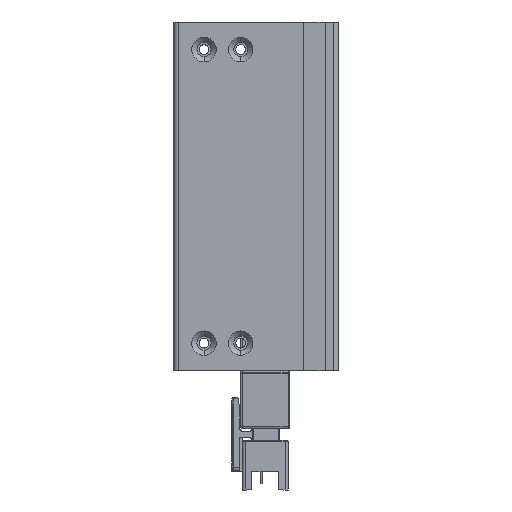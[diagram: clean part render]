
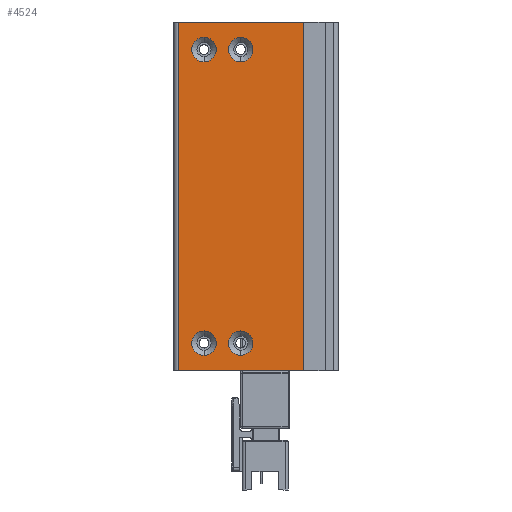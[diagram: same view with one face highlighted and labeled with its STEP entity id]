
A CAD part, left-side view. The second image highlights one B-rep face of the part: STEP entity #4524.
In plain terms, the highlighted planar face has unit normal (-1, 0, 0).
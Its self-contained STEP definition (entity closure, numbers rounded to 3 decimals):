
#9 = CARTESIAN_POINT ( 'NONE',  ( -14., 6., 24. ) ) ;
#32 = EDGE_CURVE ( 'NONE', #2720, #9604, #1213, .T. ) ;
#53 = DIRECTION ( 'NONE',  ( 0., 0., 1. ) ) ;
#219 = ORIENTED_EDGE ( 'NONE', *, *, #8504, .F. ) ;
#292 = CARTESIAN_POINT ( 'NONE',  ( -14., 12., -26. ) ) ;
#305 = DIRECTION ( 'NONE',  ( 0., 0., -1. ) ) ;
#452 = CIRCLE ( 'NONE', #10218, 2. ) ;
#588 = AXIS2_PLACEMENT_3D ( 'NONE', #5699, #9320, #53 ) ;
#654 = CARTESIAN_POINT ( 'NONE',  ( -14., 12., -24. ) ) ;
#665 = DIRECTION ( 'NONE',  ( 0., -1., 0. ) ) ;
#818 = CIRCLE ( 'NONE', #1739, 2. ) ;
#819 = DIRECTION ( 'NONE',  ( 0., 0., 1. ) ) ;
#906 = DIRECTION ( 'NONE',  ( 0., 0., -1. ) ) ;
#983 = VERTEX_POINT ( 'NONE', #7760 ) ;
#1068 = VECTOR ( 'NONE', #305, 1000. ) ;
#1170 = CARTESIAN_POINT ( 'NONE',  ( -14., 16.2, 28.5 ) ) ;
#1190 = CARTESIAN_POINT ( 'NONE',  ( -14., 12., -24. ) ) ;
#1198 = CARTESIAN_POINT ( 'NONE',  ( -14., 12., 24. ) ) ;
#1213 = LINE ( 'NONE', #3557, #11637 ) ;
#1254 = CARTESIAN_POINT ( 'NONE',  ( -14., -4.3, 28.5 ) ) ;
#1372 = DIRECTION ( 'NONE',  ( -1., 0., 0. ) ) ;
#1380 = DIRECTION ( 'NONE',  ( -1., 0., 0. ) ) ;
#1495 = CARTESIAN_POINT ( 'NONE',  ( -14., 6., -24. ) ) ;
#1548 = CARTESIAN_POINT ( 'NONE',  ( -14., 16.2, -28.5 ) ) ;
#1568 = CARTESIAN_POINT ( 'NONE',  ( -14., 16.2, 28.5 ) ) ;
#1640 = CARTESIAN_POINT ( 'NONE',  ( -14., 12., -22. ) ) ;
#1739 = AXIS2_PLACEMENT_3D ( 'NONE', #9, #7407, #1952 ) ;
#1779 = ORIENTED_EDGE ( 'NONE', *, *, #5273, .F. ) ;
#1952 = DIRECTION ( 'NONE',  ( 0., 0., 1. ) ) ;
#1971 = FACE_BOUND ( 'NONE', #2373, .T. ) ;
#2093 = ORIENTED_EDGE ( 'NONE', *, *, #9767, .T. ) ;
#2151 = CARTESIAN_POINT ( 'NONE',  ( -14., 6., 24. ) ) ;
#2253 = CARTESIAN_POINT ( 'NONE',  ( -14., 6., 26. ) ) ;
#2372 = VERTEX_POINT ( 'NONE', #8644 ) ;
#2373 = EDGE_LOOP ( 'NONE', ( #1779, #9300 ) ) ;
#2420 = ORIENTED_EDGE ( 'NONE', *, *, #7855, .F. ) ;
#2720 = VERTEX_POINT ( 'NONE', #3700 ) ;
#2728 = CIRCLE ( 'NONE', #8803, 2. ) ;
#2765 = ORIENTED_EDGE ( 'NONE', *, *, #5393, .F. ) ;
#2840 = CARTESIAN_POINT ( 'NONE',  ( -14., 6., 22. ) ) ;
#2861 = EDGE_CURVE ( 'NONE', #6762, #983, #11427, .T. ) ;
#2935 = EDGE_LOOP ( 'NONE', ( #2420, #11656 ) ) ;
#2946 = ORIENTED_EDGE ( 'NONE', *, *, #2861, .F. ) ;
#3094 = DIRECTION ( 'NONE',  ( 0., 0., 1. ) ) ;
#3114 = DIRECTION ( 'NONE',  ( 0., 0., 1. ) ) ;
#3557 = CARTESIAN_POINT ( 'NONE',  ( -14., 16.2, 28.5 ) ) ;
#3636 = CARTESIAN_POINT ( 'NONE',  ( -14., 16.2, -28.5 ) ) ;
#3699 = VERTEX_POINT ( 'NONE', #7610 ) ;
#3700 = CARTESIAN_POINT ( 'NONE',  ( -14., 16.2, 28.5 ) ) ;
#3836 = VECTOR ( 'NONE', #665, 1000. ) ;
#3980 = FACE_BOUND ( 'NONE', #11153, .T. ) ;
#4135 = CARTESIAN_POINT ( 'NONE',  ( -14., 6., -22. ) ) ;
#4256 = VECTOR ( 'NONE', #906, 1000. ) ;
#4406 = EDGE_CURVE ( 'NONE', #2372, #3699, #5294, .T. ) ;
#4524 = ADVANCED_FACE ( 'NONE', ( #1971, #6848, #3980, #5861, #8009 ), #6083, .F. ) ;
#4719 = VERTEX_POINT ( 'NONE', #2840 ) ;
#4932 = DIRECTION ( 'NONE',  ( -1., 0., 0. ) ) ;
#5000 = DIRECTION ( 'NONE',  ( 0., 0., 1. ) ) ;
#5011 = VERTEX_POINT ( 'NONE', #1640 ) ;
#5204 = DIRECTION ( 'NONE',  ( 1., 0., 0. ) ) ;
#5273 = EDGE_CURVE ( 'NONE', #3699, #2372, #9620, .T. ) ;
#5294 = CIRCLE ( 'NONE', #11449, 2. ) ;
#5329 = VERTEX_POINT ( 'NONE', #7639 ) ;
#5393 = EDGE_CURVE ( 'NONE', #8478, #5011, #2728, .T. ) ;
#5568 = AXIS2_PLACEMENT_3D ( 'NONE', #9491, #4932, #3094 ) ;
#5699 = CARTESIAN_POINT ( 'NONE',  ( -14., 12., 24. ) ) ;
#5861 = FACE_BOUND ( 'NONE', #8111, .T. ) ;
#5961 = DIRECTION ( 'NONE',  ( -1., 0., 0. ) ) ;
#6083 = PLANE ( 'NONE',  #8336 ) ;
#6762 = VERTEX_POINT ( 'NONE', #4135 ) ;
#6848 = FACE_BOUND ( 'NONE', #2935, .T. ) ;
#6952 = EDGE_LOOP ( 'NONE', ( #2093, #11073, #7440, #11147 ) ) ;
#6969 = LINE ( 'NONE', #1548, #3836 ) ;
#7265 = LINE ( 'NONE', #9155, #4256 ) ;
#7398 = DIRECTION ( 'NONE',  ( 0., -1., 0. ) ) ;
#7407 = DIRECTION ( 'NONE',  ( -1., 0., 0. ) ) ;
#7440 = ORIENTED_EDGE ( 'NONE', *, *, #32, .F. ) ;
#7610 = CARTESIAN_POINT ( 'NONE',  ( -14., 12., 26. ) ) ;
#7639 = CARTESIAN_POINT ( 'NONE',  ( -14., -4.3, -28.5 ) ) ;
#7760 = CARTESIAN_POINT ( 'NONE',  ( -14., 6., -26. ) ) ;
#7855 = EDGE_CURVE ( 'NONE', #8250, #4719, #818, .T. ) ;
#8009 = FACE_OUTER_BOUND ( 'NONE', #6952, .T. ) ;
#8111 = EDGE_LOOP ( 'NONE', ( #219, #2765 ) ) ;
#8250 = VERTEX_POINT ( 'NONE', #2253 ) ;
#8336 = AXIS2_PLACEMENT_3D ( 'NONE', #1568, #5204, #10693 ) ;
#8377 = VERTEX_POINT ( 'NONE', #3636 ) ;
#8478 = VERTEX_POINT ( 'NONE', #292 ) ;
#8504 = EDGE_CURVE ( 'NONE', #5011, #8478, #11015, .T. ) ;
#8612 = DIRECTION ( 'NONE',  ( -1., 0., 0. ) ) ;
#8644 = CARTESIAN_POINT ( 'NONE',  ( -14., 12., 22. ) ) ;
#8750 = DIRECTION ( 'NONE',  ( 0., 0., 1. ) ) ;
#8803 = AXIS2_PLACEMENT_3D ( 'NONE', #1190, #5961, #9469 ) ;
#9065 = ORIENTED_EDGE ( 'NONE', *, *, #10106, .F. ) ;
#9110 = DIRECTION ( 'NONE',  ( -1., 0., 0. ) ) ;
#9155 = CARTESIAN_POINT ( 'NONE',  ( -14., -4.3, 28.5 ) ) ;
#9300 = ORIENTED_EDGE ( 'NONE', *, *, #4406, .F. ) ;
#9320 = DIRECTION ( 'NONE',  ( -1., 0., 0. ) ) ;
#9469 = DIRECTION ( 'NONE',  ( 0., 0., 1. ) ) ;
#9491 = CARTESIAN_POINT ( 'NONE',  ( -14., 6., -24. ) ) ;
#9582 = EDGE_CURVE ( 'NONE', #2720, #8377, #9737, .T. ) ;
#9604 = VERTEX_POINT ( 'NONE', #1254 ) ;
#9620 = CIRCLE ( 'NONE', #588, 2. ) ;
#9737 = LINE ( 'NONE', #1170, #1068 ) ;
#9767 = EDGE_CURVE ( 'NONE', #8377, #5329, #6969, .T. ) ;
#10106 = EDGE_CURVE ( 'NONE', #983, #6762, #10166, .T. ) ;
#10166 = CIRCLE ( 'NONE', #10536, 2. ) ;
#10218 = AXIS2_PLACEMENT_3D ( 'NONE', #2151, #8612, #3114 ) ;
#10274 = AXIS2_PLACEMENT_3D ( 'NONE', #654, #9110, #819 ) ;
#10397 = EDGE_CURVE ( 'NONE', #9604, #5329, #7265, .T. ) ;
#10536 = AXIS2_PLACEMENT_3D ( 'NONE', #1495, #1380, #8750 ) ;
#10693 = DIRECTION ( 'NONE',  ( 0., 0., -1. ) ) ;
#10781 = EDGE_CURVE ( 'NONE', #4719, #8250, #452, .T. ) ;
#11015 = CIRCLE ( 'NONE', #10274, 2. ) ;
#11073 = ORIENTED_EDGE ( 'NONE', *, *, #10397, .F. ) ;
#11147 = ORIENTED_EDGE ( 'NONE', *, *, #9582, .T. ) ;
#11153 = EDGE_LOOP ( 'NONE', ( #2946, #9065 ) ) ;
#11427 = CIRCLE ( 'NONE', #5568, 2. ) ;
#11449 = AXIS2_PLACEMENT_3D ( 'NONE', #1198, #1372, #5000 ) ;
#11637 = VECTOR ( 'NONE', #7398, 1000. ) ;
#11656 = ORIENTED_EDGE ( 'NONE', *, *, #10781, .F. ) ;
